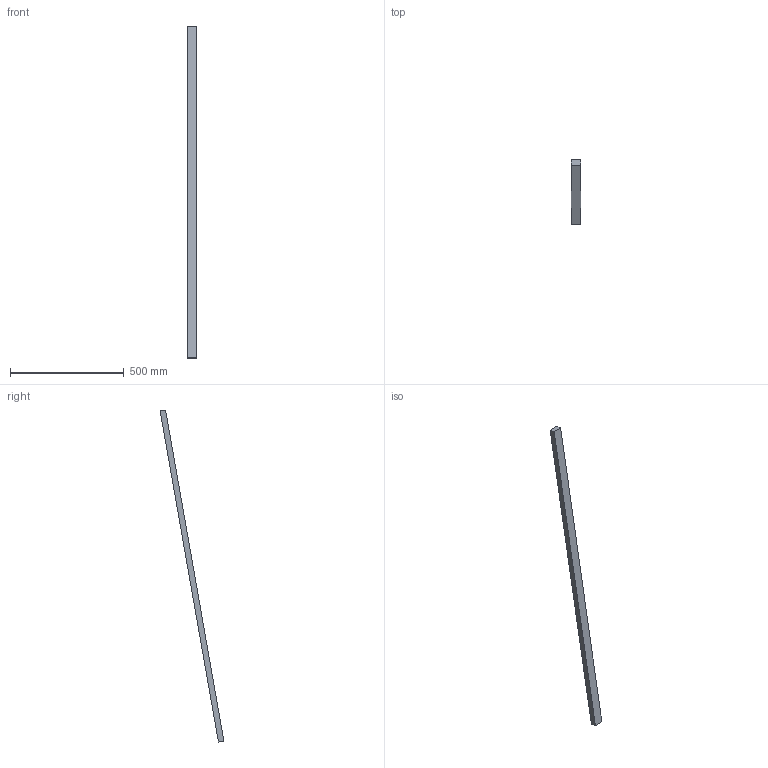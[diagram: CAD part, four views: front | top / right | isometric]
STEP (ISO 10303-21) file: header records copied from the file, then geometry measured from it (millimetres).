
FILE_DESCRIPTION(('golf model'),'2;1');
FILE_NAME('golf','',(''),(''),'golf_step_io','golf','');
FILE_SCHEMA(('AUTOMOTIVE_DESIGN { 1 0 10303 214 1 1 1 1 }'));
Length unit declared in the file: millimetre
Products named in the file (2): ASSEMBLY; gantry_frame.y_riser_0
Assembly tree (1 placements, depth 2):
  ASSEMBLY
    gantry_frame.y_riser_0
Bounding box: 40 x 281.27 x 1459.89 mm (x, y, z)
Volume: 1471402.7 mm3; surface area: 199417.9 mm2
Topology: 1 solids, 1 shells, 54 faces, 108 edges, 80 vertices
Faces by surface type: plane 30, cylinder 24
Full cylindrical faces by diameter (mm): 5 x24
Entity records: 1150 total; most frequent: DIRECTION 220, CARTESIAN_POINT 172, ORIENTED_EDGE 120, AXIS2_PLACEMENT_3D 104, EDGE_LOOP 102, FACE_BOUND 101, EDGE_CURVE 60, VERTEX_POINT 56
